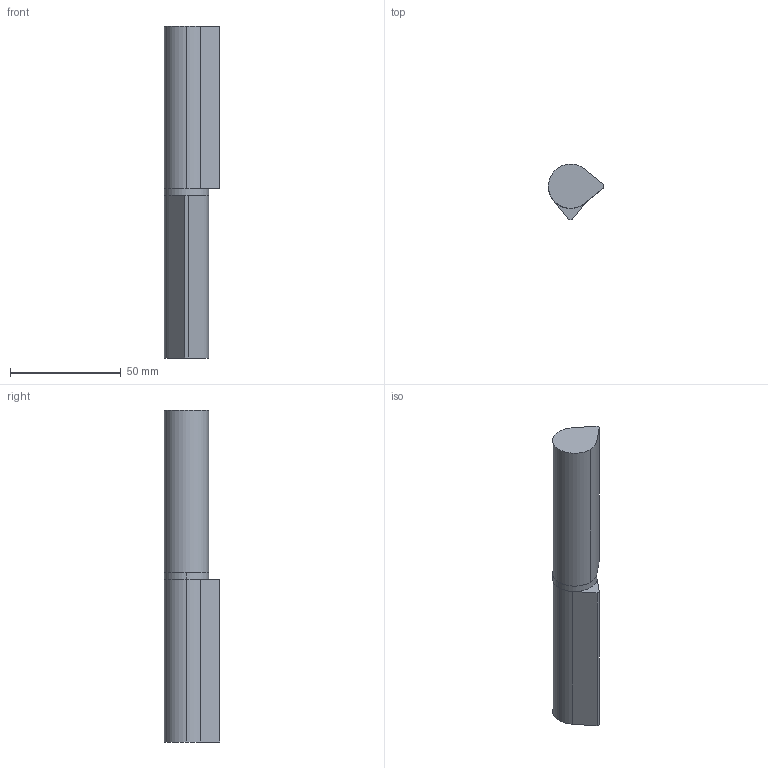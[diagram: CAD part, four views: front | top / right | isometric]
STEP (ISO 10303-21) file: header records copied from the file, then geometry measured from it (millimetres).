
FILE_DESCRIPTION (( 'STEP AP214' ), '1' );
FILE_NAME ('3.ST7-2.006.STEP', '2016-09-09T09:32:00', ( '' ), ( '' ), 'SwSTEP 2.0', 'SolidWorks 2015', '' );
FILE_SCHEMA (( 'AUTOMOTIVE_DESIGN' ));
Length unit declared in the file: millimetre
Products named in the file (4): 3.ST7-2.006; 3.ST7-1.006.03_A; 3.ST7-1.006.02_A; 3.ST7-2.006.01_A
Assembly tree (4 placements, depth 2):
  3.ST7-2.006
    3.ST7-2.006.01_A  x2
    3.ST7-1.006.02_A
    3.ST7-1.006.03_A
Bounding box: 25 x 25 x 150 mm (x, y, z)
Volume: 50395.1 mm3; surface area: 19244.6 mm2
Topology: 4 solids, 4 shells, 86 faces, 180 edges, 114 vertices
Faces by surface type: plane 42, cylinder 32, cone 12
Entity records: 2088 total; most frequent: DIRECTION 392, CARTESIAN_POINT 320, ORIENTED_EDGE 292, AXIS2_PLACEMENT_3D 167, EDGE_CURVE 146, VERTEX_POINT 95, EDGE_LOOP 89, CIRCLE 88
